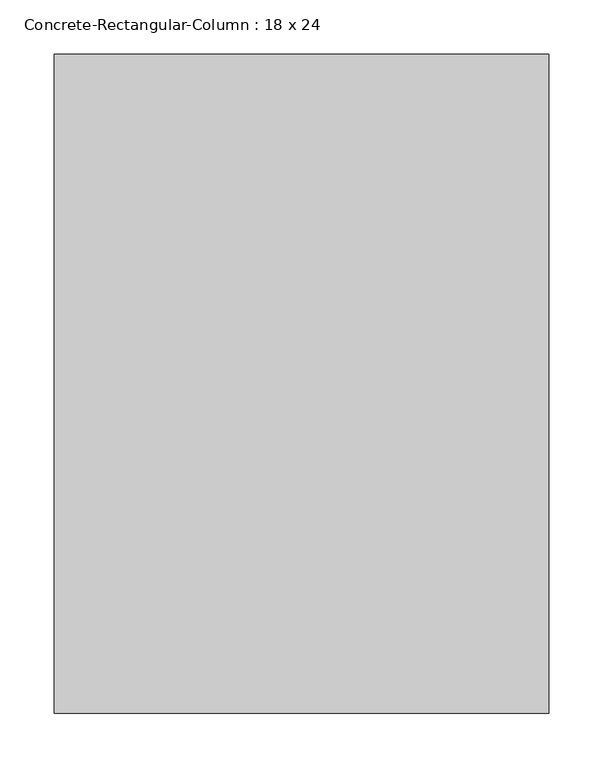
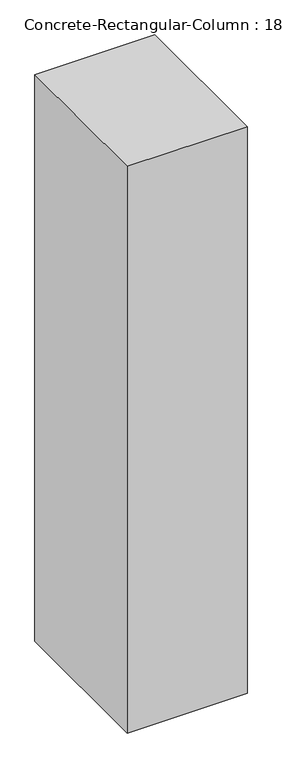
"""IFC4 building model written with IfcOpenShell, lengths in millimetres: column geometry, Concrete-Rectangular-Column : 18 x 24."""

from ifc_helpers import new_model, si_unit, frame, origin, place, context, project, spatial, polyline, outline, extrude, source, transform, mapped, element, save


def concrete_rectangular_column_18_x_24_770e3ad4(model_context):
    return source(origin(), model_context, "Body", "SweptSolid", [
        extrude(outline(polyline([(228.6, 304.8), (228.6, -304.8), (-228.6, -304.8), (-228.6, 304.8), (228.6, 304.8)])), frame((0.0, 0.0, -2286.0), z_axis=(0.0, 0.0, 1.0), x_axis=(1.0, 0.0, 0.0)), (0.0, 0.0, 1.0), 2286.0),
    ])


if __name__ == "__main__":
    model = new_model("IFC4")
    model_context = context("Model", 3, world=origin())
    ifc_project = project(units=[si_unit("LENGTHUNIT", "METRE", prefix="MILLI")], contexts=[model_context])
    site = spatial("IfcSite", under=ifc_project)
    building = spatial("IfcBuilding", under=site)
    placement = place(None, origin())
    concrete_rectangular_column_18_x_24_shape = concrete_rectangular_column_18_x_24_770e3ad4(model_context)
    element("IfcColumn", 1, ObjectType="Concrete-Rectangular-Column : 18 x 24", at=placement, inside=building, context=model_context, shape_type="MappedRepresentation", body=[
        mapped(concrete_rectangular_column_18_x_24_shape, transform((0.0, 0.0, 0.0), x_axis=(1.0, 0.0, 0.0), y_axis=(0.0, 1.0, 0.0), z_axis=(0.0, 0.0, 1.0))),
    ])
    save(model, "model.ifc")
